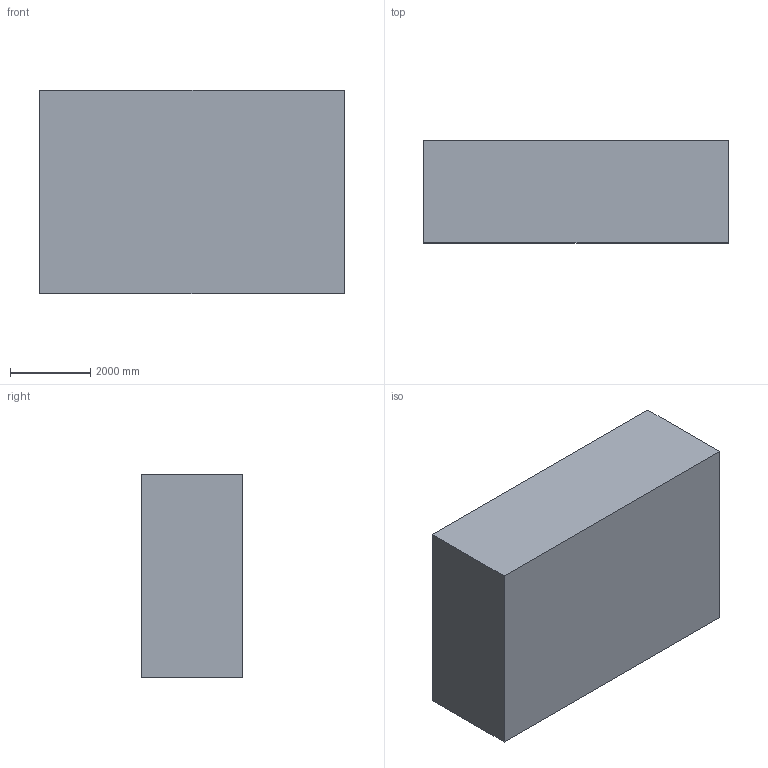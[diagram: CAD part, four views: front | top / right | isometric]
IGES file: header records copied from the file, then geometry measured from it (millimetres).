
Start section:  PTC IGES file: test_part_2_root.igs
Global section: file name: test_part_2_root.igs; native system: Pro/ENGINEER by Parametric Technology Corporation; preprocessor: 2004110; author: jconover; organization: Unknown; date: 040429.135337; units: inch
Bounding box: 7620 x 2540 x 5080 mm (x, y, z)
Volume: 74889743521.6 mm3; surface area: 202148315.7 mm2
Topology: 1 solids, 1 shells, 31 faces, 66 edges, 42 vertices
Faces by surface type: revolution 18, bspline 13
